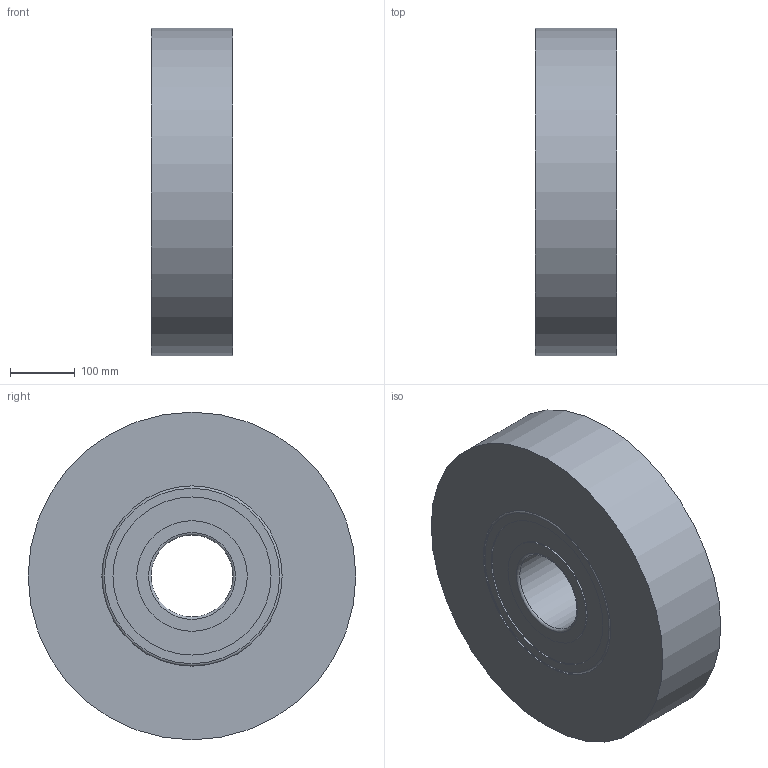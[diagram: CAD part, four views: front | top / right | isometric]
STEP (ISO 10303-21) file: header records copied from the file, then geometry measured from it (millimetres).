
FILE_DESCRIPTION((''),'1');
FILE_NAME('H:/図庫/国内ﾕﾆｯﾄ/ｶﾀﾛｸﾞ/ｺﾞﾑ直巻/ホームページ用ＣＡＤ図面/update用/3', '2017-07-14T09:02:04',(''), (''), 'KCM Version 1.1.1442.0', 'Kubotek KeyCreator', '');
FILE_SCHEMA(('AUTOMOTIVE_DESIGN'));
Length unit declared in the file: inch
Bounding box: 127 x 508 x 508 mm (x, y, z)
Surface area: 649233.8 mm2 (no closed solid volume)
Topology: 0 solids, 20 shells, 20 faces, 68 edges, 56 vertices
Faces by surface type: cylinder 8, plane 8, torus 4
Full cylindrical faces by diameter (mm): 127 x1, 171.45 x2, 245.11 x2, 279.4 x2, 508 x1
Entity records: 790 total; most frequent: DIRECTION 154, CARTESIAN_POINT 137, ORIENTED_EDGE 80, AXIS2_PLACEMENT_3D 73, EDGE_CURVE 68, VERTEX_POINT 56, CIRCLE 52, EDGE_LOOP 28
